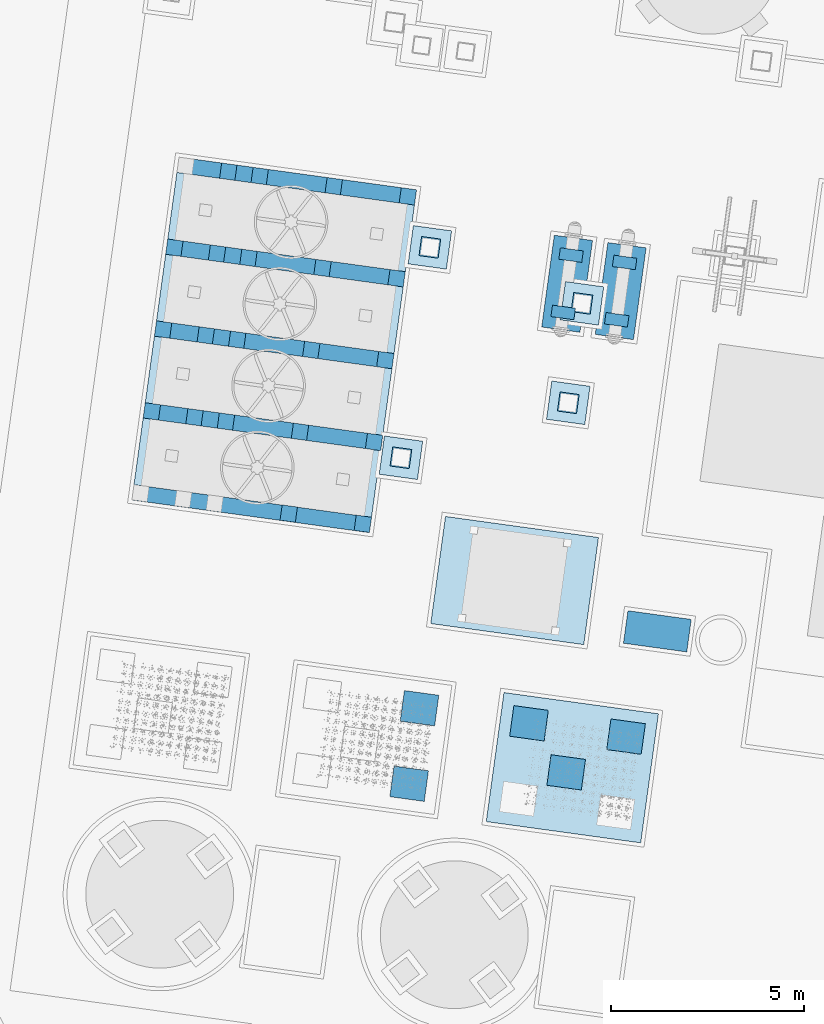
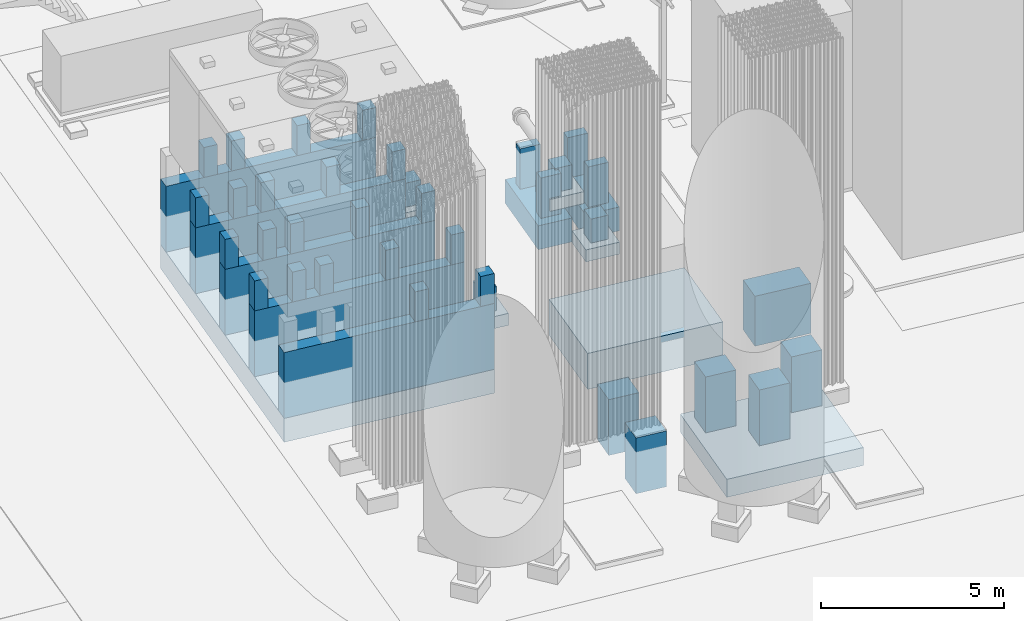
# Not in any storey, part 3 of 75: 49 footings.
"""IFC4 model written with IfcOpenShell, lengths in metres."""

from ifc_helpers import new_model, si_unit, direction, origin, origin_with_axes, place, context, subcontext, project, spatial, triangles, material, element, save


model = new_model("IFC4")

# Units and contexts
model_context = context("Model", 3, precision=1e-05, world=origin_with_axes(), true_north=direction((0.0, 1.0)))
body_context = subcontext(model_context, "Body", "Model", "MODEL_VIEW")
ifc_project = project(units=[si_unit("AREAUNIT", "SQUARE_METRE"), si_unit("VOLUMEUNIT", "CUBIC_METRE"), si_unit("LENGTHUNIT", "METRE")], contexts=[model_context])

# Site
site_placement = place(None, origin_with_axes())
site = spatial("IfcSite", under=ifc_project, at=site_placement, Name="Parcela industrial Jinhong")

# Footings
footing_1_placement = place(None, origin())
element("IfcFooting", 1, at=footing_1_placement, inside=site, Name="Cimentación del evaporador de residuos · apoyo rectangular · cuerpo de hormigón", PredefinedType="PAD_FOOTING", context=body_context, shape_type="Tessellation", body=[
    triangles([(50.027862, 38.788323, 0.1), (48.388285, 39.01374, 0.1), (48.504058, 39.855819, 0.1), (50.143635, 39.630401, 0.1), (50.027862, 38.788323, 1.77), (48.388285, 39.01374, 1.77), (48.504058, 39.855819, 1.77), (50.143635, 39.630401, 1.77)], [[1, 2, 3], [3, 4, 1], [7, 6, 5], [5, 8, 7], [5, 6, 1], [1, 6, 2], [6, 7, 2], [2, 7, 3], [8, 5, 4], [4, 5, 1], [7, 8, 3], [3, 8, 4]], closed=True),
])
footing_2_placement = place(None, origin())
element("IfcFooting", 2, at=footing_2_placement, inside=site, Name="Cimentación del posenfriador WE441-PLAN · cuerpo de hormigón", PredefinedType="PAD_FOOTING", context=body_context, shape_type="Tessellation", body=[
    triangles([(46.269973, 47.203721, -0.9), (46.596863, 49.581355, -0.9), (47.587544, 49.445151, -0.9), (47.260654, 47.067517, -0.9), (46.269973, 47.203721, -0.1), (46.596863, 49.581355, -0.1), (47.587544, 49.445151, -0.1), (47.260654, 47.067517, -0.1)], [[1, 2, 3], [3, 4, 1], [7, 6, 5], [5, 8, 7], [5, 6, 1], [1, 6, 2], [6, 7, 2], [2, 7, 3], [8, 5, 4], [4, 5, 1], [7, 8, 3], [3, 8, 4]], closed=True),
])
footing_3_placement = place(None, origin())
element("IfcFooting", 3, at=footing_3_placement, inside=site, Name="Cimentación del posenfriador WE441-PLAN · pedestal DZ6 1", PredefinedType="PAD_FOOTING", context=body_context, shape_type="Tessellation", body=[
    triangles([(47.348546, 49.175188, -0.1), (47.307685, 48.877984, -0.1), (46.713277, 48.959706, -0.1), (46.754138, 49.25691, -0.1), (47.348546, 49.175188, 1.25), (47.307685, 48.877984, 1.25), (46.713277, 48.959706, 1.25), (46.754138, 49.25691, 1.25)], [[1, 2, 3], [3, 4, 1], [7, 6, 5], [5, 8, 7], [5, 6, 1], [1, 6, 2], [6, 7, 2], [2, 7, 3], [8, 5, 4], [4, 5, 1], [7, 8, 3], [3, 8, 4]], closed=True),
])
footing_4_placement = place(None, origin())
element("IfcFooting", 4, at=footing_4_placement, inside=site, Name="Cimentación del posenfriador WE441-PLAN · pedestal DZ6 2", PredefinedType="PAD_FOOTING", context=body_context, shape_type="Tessellation", body=[
    triangles([(47.14424, 47.689167, -0.1), (47.103379, 47.391962, -0.1), (46.508971, 47.473685, -0.1), (46.549832, 47.770889, -0.1), (47.14424, 47.689167, 1.25), (47.103379, 47.391962, 1.25), (46.508971, 47.473685, 1.25), (46.549832, 47.770889, 1.25)], [[1, 2, 3], [3, 4, 1], [7, 6, 5], [5, 8, 7], [5, 6, 1], [1, 6, 2], [6, 7, 2], [2, 7, 3], [8, 5, 4], [4, 5, 1], [7, 8, 3], [3, 8, 4]], closed=True),
])
footing_5_placement = place(None, origin())
element("IfcFooting", 5, at=footing_5_placement, inside=site, Name="Cimentación del posenfriador WE442-PLAN · cuerpo de hormigón", PredefinedType="PAD_FOOTING", context=body_context, shape_type="Tessellation", body=[
    triangles([(47.656927, 47.013036, -0.9), (47.983816, 49.39067, -0.9), (48.974497, 49.254466, -0.9), (48.647607, 46.876832, -0.9), (47.656927, 47.013036, -0.1), (47.983816, 49.39067, -0.1), (48.974497, 49.254466, -0.1), (48.647607, 46.876832, -0.1)], [[1, 2, 3], [3, 4, 1], [7, 6, 5], [5, 8, 7], [5, 6, 1], [1, 6, 2], [6, 7, 2], [2, 7, 3], [8, 5, 4], [4, 5, 1], [7, 8, 3], [3, 8, 4]], closed=True),
])
footing_6_placement = place(None, origin())
element("IfcFooting", 6, at=footing_6_placement, inside=site, Name="Cimentación del posenfriador WE442-PLAN · pedestal DZ6 1", PredefinedType="PAD_FOOTING", context=body_context, shape_type="Tessellation", body=[
    triangles([(48.7355, 48.984502, -0.1), (48.694638, 48.687298, -0.1), (48.10023, 48.76902, -0.1), (48.141091, 49.066225, -0.1), (48.7355, 48.984502, 1.25), (48.694638, 48.687298, 1.25), (48.10023, 48.76902, 1.25), (48.141091, 49.066225, 1.25)], [[1, 2, 3], [3, 4, 1], [7, 6, 5], [5, 8, 7], [5, 6, 1], [1, 6, 2], [6, 7, 2], [2, 7, 3], [8, 5, 4], [4, 5, 1], [7, 8, 3], [3, 8, 4]], closed=True),
])
footing_7_placement = place(None, origin())
element("IfcFooting", 7, at=footing_7_placement, inside=site, Name="Cimentación del posenfriador WE442-PLAN · pedestal DZ6 2", PredefinedType="PAD_FOOTING", context=body_context, shape_type="Tessellation", body=[
    triangles([(48.531194, 47.498481, -0.1), (48.490332, 47.201277, -0.1), (47.895924, 47.282999, -0.1), (47.936785, 47.580203, -0.1), (48.531194, 47.498481, 1.25), (48.490332, 47.201277, 1.25), (47.895924, 47.282999, 1.25), (47.936785, 47.580203, 1.25)], [[1, 2, 3], [3, 4, 1], [7, 6, 5], [5, 8, 7], [5, 6, 1], [1, 6, 2], [6, 7, 2], [2, 7, 3], [8, 5, 4], [4, 5, 1], [7, 8, 3], [3, 8, 4]], closed=True),
])
footing_8_placement = place(None, origin())
element("IfcFooting", 8, at=footing_8_placement, inside=site, Name="Cimentación del vaporizador LV1802B · pedestal DZ8 2", PredefinedType="PAD_FOOTING", context=body_context, shape_type="Tessellation", body=[
    triangles([(43.605992, 37.665408, -0.3), (43.497028, 36.872863, -0.3), (42.605416, 36.995447, -0.3), (42.714379, 37.787991, -0.3), (43.605992, 37.665408, 1.565), (43.497028, 36.872863, 1.565), (42.605416, 36.995447, 1.565), (42.714379, 37.787991, 1.565)], [[1, 2, 3], [3, 4, 1], [7, 6, 5], [5, 8, 7], [5, 6, 1], [1, 6, 2], [6, 7, 2], [2, 7, 3], [8, 5, 4], [4, 5, 1], [7, 8, 3], [3, 8, 4]], closed=True),
])
footing_9_placement = place(None, origin())
element("IfcFooting", 9, at=footing_9_placement, inside=site, Name="Cimentación del vaporizador LV1802B · pedestal DZ8 3", PredefinedType="PAD_FOOTING", context=body_context, shape_type="Tessellation", body=[
    triangles([(43.337125, 35.709804, -0.3), (43.228162, 34.917259, -0.3), (42.336549, 35.039843, -0.3), (42.445512, 35.832387, -0.3), (43.337125, 35.709804, 1.565), (43.228162, 34.917259, 1.565), (42.336549, 35.039843, 1.565), (42.445512, 35.832387, 1.565)], [[1, 2, 3], [3, 4, 1], [7, 6, 5], [5, 8, 7], [5, 6, 1], [1, 6, 2], [6, 7, 2], [2, 7, 3], [8, 5, 4], [4, 5, 1], [7, 8, 3], [3, 8, 4]], closed=True),
])
footing_10_placement = place(None, origin())
element("IfcFooting", 10, at=footing_10_placement, inside=site, Name="Cimentación del vaporizador LV1802C · cuerpo de hormigón", PredefinedType="PAD_FOOTING", context=body_context, shape_type="Tessellation", body=[
    triangles([(49.293733, 37.18625, -0.9), (48.834181, 33.843693, -0.9), (44.833812, 34.393684, -0.9), (45.293364, 37.736241, -0.9), (49.293733, 37.18625, -0.3), (48.834181, 33.843693, -0.3), (44.833812, 34.393684, -0.3), (45.293364, 37.736241, -0.3)], [[1, 2, 3], [3, 4, 1], [7, 6, 5], [5, 8, 7], [5, 6, 1], [1, 6, 2], [6, 7, 2], [2, 7, 3], [8, 5, 4], [4, 5, 1], [7, 8, 3], [3, 8, 4]], closed=True),
])
footing_11_placement = place(None, origin())
element("IfcFooting", 11, at=footing_11_placement, inside=site, Name="Cimentación del vaporizador LV1802C · pedestal DZ8 1", PredefinedType="PAD_FOOTING", context=body_context, shape_type="Tessellation", body=[
    triangles([(46.44132, 37.275592, -0.3), (46.332357, 36.483047, -0.3), (45.440744, 36.605631, -0.3), (45.549707, 37.398176, -0.3), (46.44132, 37.275592, 1.565), (46.332357, 36.483047, 1.565), (45.440744, 36.605631, 1.565), (45.549707, 37.398176, 1.565)], [[1, 2, 3], [3, 4, 1], [7, 6, 5], [5, 8, 7], [5, 6, 1], [1, 6, 2], [6, 7, 2], [2, 7, 3], [8, 5, 4], [4, 5, 1], [7, 8, 3], [3, 8, 4]], closed=True),
])
footing_12_placement = place(None, origin())
element("IfcFooting", 12, at=footing_12_placement, inside=site, Name="Cimentación del vaporizador LV1802C · pedestal DZ8 2", PredefinedType="PAD_FOOTING", context=body_context, shape_type="Tessellation", body=[
    triangles([(48.955668, 36.929907, -0.3), (48.846705, 36.137362, -0.3), (47.955092, 36.259945, -0.3), (48.064055, 37.05249, -0.3), (48.955668, 36.929907, 1.565), (48.846705, 36.137362, 1.565), (47.955092, 36.259945, 1.565), (48.064055, 37.05249, 1.565)], [[1, 2, 3], [3, 4, 1], [7, 6, 5], [5, 8, 7], [5, 6, 1], [1, 6, 2], [6, 7, 2], [2, 7, 3], [8, 5, 4], [4, 5, 1], [7, 8, 3], [3, 8, 4]], closed=True),
])
footing_13_placement = place(None, origin())
element("IfcFooting", 13, at=footing_13_placement, inside=site, Name="Cimentación del vaporizador LV1802C · pedestal DZ8 5", PredefinedType="PAD_FOOTING", context=body_context, shape_type="Tessellation", body=[
    triangles([(47.40517, 36.004466, -0.3), (47.296207, 35.211921, -0.3), (46.404594, 35.334505, -0.3), (46.513557, 36.12705, -0.3), (47.40517, 36.004466, 1.565), (47.296207, 35.211921, 1.565), (46.404594, 35.334505, 1.565), (46.513557, 36.12705, 1.565)], [[1, 2, 3], [3, 4, 1], [7, 6, 5], [5, 8, 7], [5, 6, 1], [1, 6, 2], [6, 7, 2], [2, 7, 3], [8, 5, 4], [4, 5, 1], [7, 8, 3], [3, 8, 4]], closed=True),
])
footing_14_placement = place(None, origin())
element("IfcFooting", 14, at=footing_14_placement, inside=site, Name="Cimentación común de torres de refrigeración · cuerpo de hormigón", PredefinedType="PAD_FOOTING", context=body_context, shape_type="Tessellation", body=[
    triangles([(35.656364, 42.727351, -0.9), (36.876751, 51.603852, -0.9), (43.028879, 50.758025, -0.9), (41.808492, 41.881525, -0.9), (35.656364, 42.727351, -0.1), (36.876751, 51.603852, -0.1), (43.028879, 50.758025, -0.1), (41.808492, 41.881525, -0.1)], [[1, 2, 3], [3, 4, 1], [7, 6, 5], [5, 8, 7], [5, 6, 1], [1, 6, 2], [6, 7, 2], [2, 7, 3], [8, 5, 4], [4, 5, 1], [7, 8, 3], [3, 8, 4]], closed=True),
])
footing_15_placement = place(None, origin())
element("IfcFooting", 15, at=footing_15_placement, inside=site, Name="Cimentación común de torres de refrigeración · murete transversal 1", PredefinedType="PAD_FOOTING", context=body_context, shape_type="Tessellation", body=[
    triangles([(43.028879, 50.758025, -0.1), (42.974398, 50.361753, -0.1), (36.82227, 51.207579, -0.1), (36.876751, 51.603852, -0.1), (43.028879, 50.758025, 2.1), (42.974398, 50.361753, 2.1), (36.82227, 51.207579, 2.1), (36.876751, 51.603852, 2.1)], [[1, 2, 3], [3, 4, 1], [7, 6, 5], [5, 8, 7], [5, 6, 1], [1, 6, 2], [6, 7, 2], [2, 7, 3], [8, 5, 4], [4, 5, 1], [7, 8, 3], [3, 8, 4]], closed=True),
])
footing_16_placement = place(None, origin())
element("IfcFooting", 16, at=footing_16_placement, inside=site, Name="Cimentación común de torres de refrigeración · murete transversal 2", PredefinedType="PAD_FOOTING", context=body_context, shape_type="Tessellation", body=[
    triangles([(42.737403, 48.637968, -0.1), (42.682921, 48.241696, -0.1), (36.530793, 49.087522, -0.1), (36.585275, 49.483795, -0.1), (42.737403, 48.637968, 2.1), (42.682921, 48.241696, 2.1), (36.530793, 49.087522, 2.1), (36.585275, 49.483795, 2.1)], [[1, 2, 3], [3, 4, 1], [7, 6, 5], [5, 8, 7], [5, 6, 1], [1, 6, 2], [6, 7, 2], [2, 7, 3], [8, 5, 4], [4, 5, 1], [7, 8, 3], [3, 8, 4]], closed=True),
])
footing_17_placement = place(None, origin())
element("IfcFooting", 17, at=footing_17_placement, inside=site, Name="Cimentación común de torres de refrigeración · murete transversal 3", PredefinedType="PAD_FOOTING", context=body_context, shape_type="Tessellation", body=[
    triangles([(42.445926, 46.517911, -0.1), (42.391445, 46.121639, -0.1), (36.239317, 46.967465, -0.1), (36.293799, 47.363738, -0.1), (42.445926, 46.517911, 2.1), (42.391445, 46.121639, 2.1), (36.239317, 46.967465, 2.1), (36.293799, 47.363738, 2.1)], [[1, 2, 3], [3, 4, 1], [7, 6, 5], [5, 8, 7], [5, 6, 1], [1, 6, 2], [6, 7, 2], [2, 7, 3], [8, 5, 4], [4, 5, 1], [7, 8, 3], [3, 8, 4]], closed=True),
])
footing_18_placement = place(None, origin())
element("IfcFooting", 18, at=footing_18_placement, inside=site, Name="Cimentación común de torres de refrigeración · murete transversal 4", PredefinedType="PAD_FOOTING", context=body_context, shape_type="Tessellation", body=[
    triangles([(42.15445, 44.397854, -0.1), (42.099969, 44.001582, -0.1), (35.947841, 44.847408, -0.1), (36.002322, 45.243681, -0.1), (42.15445, 44.397854, 2.1), (42.099969, 44.001582, 2.1), (35.947841, 44.847408, 2.1), (36.002322, 45.243681, 2.1)], [[1, 2, 3], [3, 4, 1], [7, 6, 5], [5, 8, 7], [5, 6, 1], [1, 6, 2], [6, 7, 2], [2, 7, 3], [8, 5, 4], [4, 5, 1], [7, 8, 3], [3, 8, 4]], closed=True),
])
footing_19_placement = place(None, origin())
element("IfcFooting", 19, at=footing_19_placement, inside=site, Name="Cimentación común de torres de refrigeración · murete transversal 5", PredefinedType="PAD_FOOTING", context=body_context, shape_type="Tessellation", body=[
    triangles([(41.862429, 42.273835, -0.1), (41.807947, 41.877562, -0.1), (35.655819, 42.723389, -0.1), (35.710301, 43.119661, -0.1), (41.862429, 42.273835, 2.1), (41.807947, 41.877562, 2.1), (35.655819, 42.723389, 2.1), (35.710301, 43.119661, 2.1)], [[1, 2, 3], [3, 4, 1], [7, 6, 5], [5, 8, 7], [5, 6, 1], [1, 6, 2], [6, 7, 2], [2, 7, 3], [8, 5, 4], [4, 5, 1], [7, 8, 3], [3, 8, 4]], closed=True),
])
footing_20_placement = place(None, origin())
element("IfcFooting", 20, at=footing_20_placement, inside=site, Name="Cimentación común de torres de refrigeración · pilar DZ9 02", PredefinedType="PAD_FOOTING", context=body_context, shape_type="Tessellation", body=[
    triangles([(38.377633, 51.397503, 2.1), (38.323151, 51.00123, 2.1), (37.926879, 51.055712, 2.1), (37.981361, 51.451984, 2.1), (38.377633, 51.397503, 3.1), (38.323151, 51.00123, 3.1), (37.926879, 51.055712, 3.1), (37.981361, 51.451984, 3.1)], [[1, 2, 3], [3, 4, 1], [7, 6, 5], [5, 8, 7], [5, 6, 1], [1, 6, 2], [6, 7, 2], [2, 7, 3], [8, 5, 4], [4, 5, 1], [7, 8, 3], [3, 8, 4]], closed=True),
])
footing_21_placement = place(None, origin())
element("IfcFooting", 21, at=footing_21_placement, inside=site, Name="Cimentación común de torres de refrigeración · pilar DZ9 03", PredefinedType="PAD_FOOTING", context=body_context, shape_type="Tessellation", body=[
    triangles([(39.191972, 51.285543, 2.1), (39.137491, 50.889271, 2.1), (38.741219, 50.943752, 2.1), (38.7957, 51.340025, 2.1), (39.191972, 51.285543, 3.1), (39.137491, 50.889271, 3.1), (38.741219, 50.943752, 3.1), (38.7957, 51.340025, 3.1)], [[1, 2, 3], [3, 4, 1], [7, 6, 5], [5, 8, 7], [5, 6, 1], [1, 6, 2], [6, 7, 2], [2, 7, 3], [8, 5, 4], [4, 5, 1], [7, 8, 3], [3, 8, 4]], closed=True),
])
footing_22_placement = place(None, origin())
element("IfcFooting", 22, at=footing_22_placement, inside=site, Name="Cimentación común de torres de refrigeración · pilar DZ9 04", PredefinedType="PAD_FOOTING", context=body_context, shape_type="Tessellation", body=[
    triangles([(41.109931, 51.021852, 2.1), (41.055449, 50.62558, 2.1), (40.659177, 50.680061, 2.1), (40.713658, 51.076334, 2.1), (41.109931, 51.021852, 3.1), (41.055449, 50.62558, 3.1), (40.659177, 50.680061, 3.1), (40.713658, 51.076334, 3.1)], [[1, 2, 3], [3, 4, 1], [7, 6, 5], [5, 8, 7], [5, 6, 1], [1, 6, 2], [6, 7, 2], [2, 7, 3], [8, 5, 4], [4, 5, 1], [7, 8, 3], [3, 8, 4]], closed=True),
])
footing_23_placement = place(None, origin())
element("IfcFooting", 23, at=footing_23_placement, inside=site, Name="Cimentación común de torres de refrigeración · pilar DZ9 05", PredefinedType="PAD_FOOTING", context=body_context, shape_type="Tessellation", body=[
    triangles([(43.028879, 50.758025, 2.1), (42.974398, 50.361753, 2.1), (42.578125, 50.416234, 2.1), (42.632607, 50.812507, 2.1), (43.028879, 50.758025, 3.1), (42.974398, 50.361753, 3.1), (42.578125, 50.416234, 3.1), (42.632607, 50.812507, 3.1)], [[1, 2, 3], [3, 4, 1], [7, 6, 5], [5, 8, 7], [5, 6, 1], [1, 6, 2], [6, 7, 2], [2, 7, 3], [8, 5, 4], [4, 5, 1], [7, 8, 3], [3, 8, 4]], closed=True),
])
footing_24_placement = place(None, origin())
element("IfcFooting", 24, at=footing_24_placement, inside=site, Name="Cimentación común de torres de refrigeración · pilar DZ9 06", PredefinedType="PAD_FOOTING", context=body_context, shape_type="Tessellation", body=[
    triangles([(36.981547, 49.429313, 2.1), (36.927066, 49.033041, 2.1), (36.530793, 49.087522, 2.1), (36.585275, 49.483795, 2.1), (36.981547, 49.429313, 3.1), (36.927066, 49.033041, 3.1), (36.530793, 49.087522, 3.1), (36.585275, 49.483795, 3.1)], [[1, 2, 3], [3, 4, 1], [7, 6, 5], [5, 8, 7], [5, 6, 1], [1, 6, 2], [6, 7, 2], [2, 7, 3], [8, 5, 4], [4, 5, 1], [7, 8, 3], [3, 8, 4]], closed=True),
])
footing_25_placement = place(None, origin())
element("IfcFooting", 25, at=footing_25_placement, inside=site, Name="Cimentación común de torres de refrigeración · pilar DZ9 07", PredefinedType="PAD_FOOTING", context=body_context, shape_type="Tessellation", body=[
    triangles([(38.086156, 49.277446, 2.1), (38.031675, 48.881173, 2.1), (37.635403, 48.935655, 2.1), (37.689884, 49.331927, 2.1), (38.086156, 49.277446, 3.1), (38.031675, 48.881173, 3.1), (37.635403, 48.935655, 3.1), (37.689884, 49.331927, 3.1)], [[1, 2, 3], [3, 4, 1], [7, 6, 5], [5, 8, 7], [5, 6, 1], [1, 6, 2], [6, 7, 2], [2, 7, 3], [8, 5, 4], [4, 5, 1], [7, 8, 3], [3, 8, 4]], closed=True),
])
footing_26_placement = place(None, origin())
element("IfcFooting", 26, at=footing_26_placement, inside=site, Name="Cimentación común de torres de refrigeración · pilar DZ9 08", PredefinedType="PAD_FOOTING", context=body_context, shape_type="Tessellation", body=[
    triangles([(38.900496, 49.165486, 2.1), (38.846015, 48.769214, 2.1), (38.449742, 48.823695, 2.1), (38.504224, 49.219968, 2.1), (38.900496, 49.165486, 3.1), (38.846015, 48.769214, 3.1), (38.449742, 48.823695, 3.1), (38.504224, 49.219968, 3.1)], [[1, 2, 3], [3, 4, 1], [7, 6, 5], [5, 8, 7], [5, 6, 1], [1, 6, 2], [6, 7, 2], [2, 7, 3], [8, 5, 4], [4, 5, 1], [7, 8, 3], [3, 8, 4]], closed=True),
])
footing_27_placement = place(None, origin())
element("IfcFooting", 27, at=footing_27_placement, inside=site, Name="Cimentación común de torres de refrigeración · pilar DZ9 09", PredefinedType="PAD_FOOTING", context=body_context, shape_type="Tessellation", body=[
    triangles([(40.818454, 48.901795, 2.1), (40.763973, 48.505523, 2.1), (40.3677, 48.560004, 2.1), (40.422182, 48.956277, 2.1), (40.818454, 48.901795, 3.1), (40.763973, 48.505523, 3.1), (40.3677, 48.560004, 3.1), (40.422182, 48.956277, 3.1)], [[1, 2, 3], [3, 4, 1], [7, 6, 5], [5, 8, 7], [5, 6, 1], [1, 6, 2], [6, 7, 2], [2, 7, 3], [8, 5, 4], [4, 5, 1], [7, 8, 3], [3, 8, 4]], closed=True),
])
footing_28_placement = place(None, origin())
element("IfcFooting", 28, at=footing_28_placement, inside=site, Name="Cimentación común de torres de refrigeración · pilar DZ9 10", PredefinedType="PAD_FOOTING", context=body_context, shape_type="Tessellation", body=[
    triangles([(42.737403, 48.637968, 2.1), (42.682921, 48.241696, 2.1), (42.286649, 48.296177, 2.1), (42.341131, 48.69245, 2.1), (42.737403, 48.637968, 3.1), (42.682921, 48.241696, 3.1), (42.286649, 48.296177, 3.1), (42.341131, 48.69245, 3.1)], [[1, 2, 3], [3, 4, 1], [7, 6, 5], [5, 8, 7], [5, 6, 1], [1, 6, 2], [6, 7, 2], [2, 7, 3], [8, 5, 4], [4, 5, 1], [7, 8, 3], [3, 8, 4]], closed=True),
])
footing_29_placement = place(None, origin())
element("IfcFooting", 29, at=footing_29_placement, inside=site, Name="Cimentación común de torres de refrigeración · pilar DZ9 11", PredefinedType="PAD_FOOTING", context=body_context, shape_type="Tessellation", body=[
    triangles([(36.690071, 47.309256, 2.1), (36.635589, 46.912984, 2.1), (36.239317, 46.967465, 2.1), (36.293799, 47.363738, 2.1), (36.690071, 47.309256, 3.1), (36.635589, 46.912984, 3.1), (36.239317, 46.967465, 3.1), (36.293799, 47.363738, 3.1)], [[1, 2, 3], [3, 4, 1], [7, 6, 5], [5, 8, 7], [5, 6, 1], [1, 6, 2], [6, 7, 2], [2, 7, 3], [8, 5, 4], [4, 5, 1], [7, 8, 3], [3, 8, 4]], closed=True),
])
footing_30_placement = place(None, origin())
element("IfcFooting", 30, at=footing_30_placement, inside=site, Name="Cimentación común de torres de refrigeración · pilar DZ9 12", PredefinedType="PAD_FOOTING", context=body_context, shape_type="Tessellation", body=[
    triangles([(37.79468, 47.157389, 2.1), (37.740198, 46.761116, 2.1), (37.343926, 46.815598, 2.1), (37.398408, 47.21187, 2.1), (37.79468, 47.157389, 3.1), (37.740198, 46.761116, 3.1), (37.343926, 46.815598, 3.1), (37.398408, 47.21187, 3.1)], [[1, 2, 3], [3, 4, 1], [7, 6, 5], [5, 8, 7], [5, 6, 1], [1, 6, 2], [6, 7, 2], [2, 7, 3], [8, 5, 4], [4, 5, 1], [7, 8, 3], [3, 8, 4]], closed=True),
])
footing_31_placement = place(None, origin())
element("IfcFooting", 31, at=footing_31_placement, inside=site, Name="Cimentación común de torres de refrigeración · pilar DZ9 13", PredefinedType="PAD_FOOTING", context=body_context, shape_type="Tessellation", body=[
    triangles([(38.60902, 47.045429, 2.1), (38.554538, 46.649157, 2.1), (38.158266, 46.703638, 2.1), (38.212747, 47.099911, 2.1), (38.60902, 47.045429, 3.1), (38.554538, 46.649157, 3.1), (38.158266, 46.703638, 3.1), (38.212747, 47.099911, 3.1)], [[1, 2, 3], [3, 4, 1], [7, 6, 5], [5, 8, 7], [5, 6, 1], [1, 6, 2], [6, 7, 2], [2, 7, 3], [8, 5, 4], [4, 5, 1], [7, 8, 3], [3, 8, 4]], closed=True),
])
footing_32_placement = place(None, origin())
element("IfcFooting", 32, at=footing_32_placement, inside=site, Name="Cimentación común de torres de refrigeración · pilar DZ9 14", PredefinedType="PAD_FOOTING", context=body_context, shape_type="Tessellation", body=[
    triangles([(40.526978, 46.781738, 2.1), (40.472496, 46.385466, 2.1), (40.076224, 46.439947, 2.1), (40.130705, 46.83622, 2.1), (40.526978, 46.781738, 3.1), (40.472496, 46.385466, 3.1), (40.076224, 46.439947, 3.1), (40.130705, 46.83622, 3.1)], [[1, 2, 3], [3, 4, 1], [7, 6, 5], [5, 8, 7], [5, 6, 1], [1, 6, 2], [6, 7, 2], [2, 7, 3], [8, 5, 4], [4, 5, 1], [7, 8, 3], [3, 8, 4]], closed=True),
])
footing_33_placement = place(None, origin())
element("IfcFooting", 33, at=footing_33_placement, inside=site, Name="Cimentación común de torres de refrigeración · pilar DZ9 15", PredefinedType="PAD_FOOTING", context=body_context, shape_type="Tessellation", body=[
    triangles([(42.445926, 46.517911, 2.1), (42.391445, 46.121639, 2.1), (41.995173, 46.17612, 2.1), (42.049654, 46.572393, 2.1), (42.445926, 46.517911, 3.1), (42.391445, 46.121639, 3.1), (41.995173, 46.17612, 3.1), (42.049654, 46.572393, 3.1)], [[1, 2, 3], [3, 4, 1], [7, 6, 5], [5, 8, 7], [5, 6, 1], [1, 6, 2], [6, 7, 2], [2, 7, 3], [8, 5, 4], [4, 5, 1], [7, 8, 3], [3, 8, 4]], closed=True),
])
footing_34_placement = place(None, origin())
element("IfcFooting", 34, at=footing_34_placement, inside=site, Name="Cimentación común de torres de refrigeración · pilar DZ9 16", PredefinedType="PAD_FOOTING", context=body_context, shape_type="Tessellation", body=[
    triangles([(36.398595, 45.189199, 2.1), (36.344113, 44.792927, 2.1), (35.947841, 44.847408, 2.1), (36.002322, 45.243681, 2.1), (36.398595, 45.189199, 3.1), (36.344113, 44.792927, 3.1), (35.947841, 44.847408, 3.1), (36.002322, 45.243681, 3.1)], [[1, 2, 3], [3, 4, 1], [7, 6, 5], [5, 8, 7], [5, 6, 1], [1, 6, 2], [6, 7, 2], [2, 7, 3], [8, 5, 4], [4, 5, 1], [7, 8, 3], [3, 8, 4]], closed=True),
])
footing_35_placement = place(None, origin())
element("IfcFooting", 35, at=footing_35_placement, inside=site, Name="Cimentación común de torres de refrigeración · pilar DZ9 17", PredefinedType="PAD_FOOTING", context=body_context, shape_type="Tessellation", body=[
    triangles([(37.503204, 45.037332, 2.1), (37.448722, 44.641059, 2.1), (37.05245, 44.695541, 2.1), (37.106931, 45.091813, 2.1), (37.503204, 45.037332, 3.1), (37.448722, 44.641059, 3.1), (37.05245, 44.695541, 3.1), (37.106931, 45.091813, 3.1)], [[1, 2, 3], [3, 4, 1], [7, 6, 5], [5, 8, 7], [5, 6, 1], [1, 6, 2], [6, 7, 2], [2, 7, 3], [8, 5, 4], [4, 5, 1], [7, 8, 3], [3, 8, 4]], closed=True),
])
footing_36_placement = place(None, origin())
element("IfcFooting", 36, at=footing_36_placement, inside=site, Name="Cimentación común de torres de refrigeración · pilar DZ9 18", PredefinedType="PAD_FOOTING", context=body_context, shape_type="Tessellation", body=[
    triangles([(38.317543, 44.925372, 2.1), (38.263062, 44.5291, 2.1), (37.866789, 44.583581, 2.1), (37.921271, 44.979854, 2.1), (38.317543, 44.925372, 3.1), (38.263062, 44.5291, 3.1), (37.866789, 44.583581, 3.1), (37.921271, 44.979854, 3.1)], [[1, 2, 3], [3, 4, 1], [7, 6, 5], [5, 8, 7], [5, 6, 1], [1, 6, 2], [6, 7, 2], [2, 7, 3], [8, 5, 4], [4, 5, 1], [7, 8, 3], [3, 8, 4]], closed=True),
])
footing_37_placement = place(None, origin())
element("IfcFooting", 37, at=footing_37_placement, inside=site, Name="Cimentación común de torres de refrigeración · pilar DZ9 19", PredefinedType="PAD_FOOTING", context=body_context, shape_type="Tessellation", body=[
    triangles([(40.235501, 44.661681, 2.1), (40.18102, 44.265409, 2.1), (39.784747, 44.319891, 2.1), (39.839229, 44.716163, 2.1), (40.235501, 44.661681, 3.1), (40.18102, 44.265409, 3.1), (39.784747, 44.319891, 3.1), (39.839229, 44.716163, 3.1)], [[1, 2, 3], [3, 4, 1], [7, 6, 5], [5, 8, 7], [5, 6, 1], [1, 6, 2], [6, 7, 2], [2, 7, 3], [8, 5, 4], [4, 5, 1], [7, 8, 3], [3, 8, 4]], closed=True),
])
footing_38_placement = place(None, origin())
element("IfcFooting", 38, at=footing_38_placement, inside=site, Name="Cimentación común de torres de refrigeración · pilar DZ9 20", PredefinedType="PAD_FOOTING", context=body_context, shape_type="Tessellation", body=[
    triangles([(42.15445, 44.397854, 2.1), (42.099969, 44.001582, 2.1), (41.703696, 44.056064, 2.1), (41.758178, 44.452336, 2.1), (42.15445, 44.397854, 3.1), (42.099969, 44.001582, 3.1), (41.703696, 44.056064, 3.1), (41.758178, 44.452336, 3.1)], [[1, 2, 3], [3, 4, 1], [7, 6, 5], [5, 8, 7], [5, 6, 1], [1, 6, 2], [6, 7, 2], [2, 7, 3], [8, 5, 4], [4, 5, 1], [7, 8, 3], [3, 8, 4]], closed=True),
])
footing_39_placement = place(None, origin())
element("IfcFooting", 39, at=footing_39_placement, inside=site, Name="Cimentación común de torres de refrigeración · pilar DZ9 24", PredefinedType="PAD_FOOTING", context=body_context, shape_type="Tessellation", body=[
    triangles([(39.944025, 42.541624, 2.1), (39.889543, 42.145352, 2.1), (39.493271, 42.199834, 2.1), (39.547753, 42.596106, 2.1), (39.944025, 42.541624, 3.1), (39.889543, 42.145352, 3.1), (39.493271, 42.199834, 3.1), (39.547753, 42.596106, 3.1)], [[1, 2, 3], [3, 4, 1], [7, 6, 5], [5, 8, 7], [5, 6, 1], [1, 6, 2], [6, 7, 2], [2, 7, 3], [8, 5, 4], [4, 5, 1], [7, 8, 3], [3, 8, 4]], closed=True),
])
footing_40_placement = place(None, origin())
element("IfcFooting", 40, at=footing_40_placement, inside=site, Name="Cimentación común de torres de refrigeración · pilar DZ9 25", PredefinedType="PAD_FOOTING", context=body_context, shape_type="Tessellation", body=[
    triangles([(41.862974, 42.277797, 2.1), (41.808492, 41.881525, 2.1), (41.41222, 41.936007, 2.1), (41.466701, 42.332279, 2.1), (41.862974, 42.277797, 3.1), (41.808492, 41.881525, 3.1), (41.41222, 41.936007, 3.1), (41.466701, 42.332279, 3.1)], [[1, 2, 3], [3, 4, 1], [7, 6, 5], [5, 8, 7], [5, 6, 1], [1, 6, 2], [6, 7, 2], [2, 7, 3], [8, 5, 4], [4, 5, 1], [7, 8, 3], [3, 8, 4]], closed=True),
])
footing_41_placement = place(None, origin())
element("IfcFooting", 41, at=footing_41_placement, inside=site, Name="Base de la caseta de analizadores · cuerpo de hormigón", PredefinedType="PAD_FOOTING", context=body_context, shape_type="Tessellation", body=[
    triangles([(43.39708, 39.523175, 0.1), (43.778451, 42.297082, 0.1), (47.741174, 41.752266, 0.1), (47.359803, 38.97836, 0.1), (43.39708, 39.523175, 1.3), (43.778451, 42.297082, 1.3), (47.741174, 41.752266, 1.3), (47.359803, 38.97836, 1.3)], [[1, 2, 3], [3, 4, 1], [7, 6, 5], [5, 8, 7], [5, 6, 1], [1, 6, 2], [6, 7, 2], [2, 7, 3], [8, 5, 4], [4, 5, 1], [7, 8, 3], [3, 8, 4]], closed=True),
])
ifc_material = material(Name="Hormigón HA-30", Category="Material documentado")
footing_42_placement = place(None, origin())
element("IfcFooting", 42, at=footing_42_placement, inside=site, material=ifc_material, Name="Cimentación de soporte de tuberías C29 · cuerpo de hormigón", PredefinedType="PAD_FOOTING", context=body_context, shape_type="Tessellation", body=[
    triangles([(42.810586, 48.839882, 0.1), (42.94679, 49.830563, 0.1), (43.937471, 49.694359, 0.1), (43.801267, 48.703678, 0.1), (42.810586, 48.839882, 0.5), (42.94679, 49.830563, 0.5), (43.937471, 49.694359, 0.5), (43.801267, 48.703678, 0.5)], [[1, 2, 3], [3, 4, 1], [7, 6, 5], [5, 8, 7], [5, 6, 1], [1, 6, 2], [6, 7, 2], [2, 7, 3], [8, 5, 4], [4, 5, 1], [7, 8, 3], [3, 8, 4]], closed=True),
])
footing_43_placement = place(None, origin())
element("IfcFooting", 43, at=footing_43_placement, inside=site, material=ifc_material, Name="Cimentación de soporte de tuberías C29 · pedestal de hormigón", PredefinedType="PAD_FOOTING", context=body_context, shape_type="Tessellation", body=[
    triangles([(43.092308, 49.053501, 0.5), (43.16041, 49.548842, 0.5), (43.65575, 49.48074, 0.5), (43.587648, 48.985399, 0.5), (43.092308, 49.053501, 1.3), (43.16041, 49.548842, 1.3), (43.65575, 49.48074, 1.3), (43.587648, 48.985399, 1.3)], [[1, 2, 3], [3, 4, 1], [7, 6, 5], [5, 8, 7], [5, 6, 1], [1, 6, 2], [6, 7, 2], [2, 7, 3], [8, 5, 4], [4, 5, 1], [7, 8, 3], [3, 8, 4]], closed=True),
])
footing_44_placement = place(None, origin())
element("IfcFooting", 44, at=footing_44_placement, inside=site, material=ifc_material, Name="Cimentación de soporte de tuberías C30 · cuerpo de hormigón", PredefinedType="PAD_FOOTING", context=body_context, shape_type="Tessellation", body=[
    triangles([(42.061465, 43.391137, 0.1), (42.197669, 44.381818, 0.1), (43.18835, 44.245614, 0.1), (43.052146, 43.254934, 0.1), (42.061465, 43.391137, 0.5), (42.197669, 44.381818, 0.5), (43.18835, 44.245614, 0.5), (43.052146, 43.254934, 0.5)], [[1, 2, 3], [3, 4, 1], [7, 6, 5], [5, 8, 7], [5, 6, 1], [1, 6, 2], [6, 7, 2], [2, 7, 3], [8, 5, 4], [4, 5, 1], [7, 8, 3], [3, 8, 4]], closed=True),
])
footing_45_placement = place(None, origin())
element("IfcFooting", 45, at=footing_45_placement, inside=site, material=ifc_material, Name="Cimentación de soporte de tuberías C30 · pedestal de hormigón", PredefinedType="PAD_FOOTING", context=body_context, shape_type="Tessellation", body=[
    triangles([(42.343186, 43.604757, 0.5), (42.411288, 44.100097, 0.5), (42.906628, 44.031995, 0.5), (42.838526, 43.536655, 0.5), (42.343186, 43.604757, 1.3), (42.411288, 44.100097, 1.3), (42.906628, 44.031995, 1.3), (42.838526, 43.536655, 1.3)], [[1, 2, 3], [3, 4, 1], [7, 6, 5], [5, 8, 7], [5, 6, 1], [1, 6, 2], [6, 7, 2], [2, 7, 3], [8, 5, 4], [4, 5, 1], [7, 8, 3], [3, 8, 4]], closed=True),
])
footing_46_placement = place(None, origin())
element("IfcFooting", 46, at=footing_46_placement, inside=site, material=ifc_material, Name="Cimentación de soporte de tuberías C31 · cuerpo de hormigón", PredefinedType="PAD_FOOTING", context=body_context, shape_type="Tessellation", body=[
    triangles([(46.749794, 47.389833, 0.1), (46.885998, 48.380514, 0.1), (47.876679, 48.24431, 0.1), (47.740475, 47.253629, 0.1), (46.749794, 47.389833, 0.5), (46.885998, 48.380514, 0.5), (47.876679, 48.24431, 0.5), (47.740475, 47.253629, 0.5)], [[1, 2, 3], [3, 4, 1], [7, 6, 5], [5, 8, 7], [5, 6, 1], [1, 6, 2], [6, 7, 2], [2, 7, 3], [8, 5, 4], [4, 5, 1], [7, 8, 3], [3, 8, 4]], closed=True),
])
footing_47_placement = place(None, origin())
element("IfcFooting", 47, at=footing_47_placement, inside=site, material=ifc_material, Name="Cimentación de soporte de tuberías C31 · pedestal de hormigón", PredefinedType="PAD_FOOTING", context=body_context, shape_type="Tessellation", body=[
    triangles([(47.031515, 47.603452, 0.5), (47.099617, 48.098793, 0.5), (47.594958, 48.030691, 0.5), (47.526856, 47.53535, 0.5), (47.031515, 47.603452, 1.3), (47.099617, 48.098793, 1.3), (47.594958, 48.030691, 1.3), (47.526856, 47.53535, 1.3)], [[1, 2, 3], [3, 4, 1], [7, 6, 5], [5, 8, 7], [5, 6, 1], [1, 6, 2], [6, 7, 2], [2, 7, 3], [8, 5, 4], [4, 5, 1], [7, 8, 3], [3, 8, 4]], closed=True),
])
footing_48_placement = place(None, origin())
element("IfcFooting", 48, at=footing_48_placement, inside=site, material=ifc_material, Name="Cimentación de soporte de tuberías C32 · cuerpo de hormigón", PredefinedType="PAD_FOOTING", context=body_context, shape_type="Tessellation", body=[
    triangles([(46.395664, 44.814063, 0.1), (46.531868, 45.804744, 0.1), (47.522549, 45.66854, 0.1), (47.386345, 44.677859, 0.1), (46.395664, 44.814063, 0.5), (46.531868, 45.804744, 0.5), (47.522549, 45.66854, 0.5), (47.386345, 44.677859, 0.5)], [[1, 2, 3], [3, 4, 1], [7, 6, 5], [5, 8, 7], [5, 6, 1], [1, 6, 2], [6, 7, 2], [2, 7, 3], [8, 5, 4], [4, 5, 1], [7, 8, 3], [3, 8, 4]], closed=True),
])
footing_49_placement = place(None, origin())
element("IfcFooting", 49, at=footing_49_placement, inside=site, material=ifc_material, Name="Cimentación de soporte de tuberías C32 · pedestal de hormigón", PredefinedType="PAD_FOOTING", context=body_context, shape_type="Tessellation", body=[
    triangles([(46.677385, 45.027682, 0.5), (46.745487, 45.523023, 0.5), (47.240828, 45.454921, 0.5), (47.172726, 44.95958, 0.5), (46.677385, 45.027682, 1.3), (46.745487, 45.523023, 1.3), (47.240828, 45.454921, 1.3), (47.172726, 44.95958, 1.3)], [[1, 2, 3], [3, 4, 1], [7, 6, 5], [5, 8, 7], [5, 6, 1], [1, 6, 2], [6, 7, 2], [2, 7, 3], [8, 5, 4], [4, 5, 1], [7, 8, 3], [3, 8, 4]], closed=True),
])

save(model, "model.ifc")
